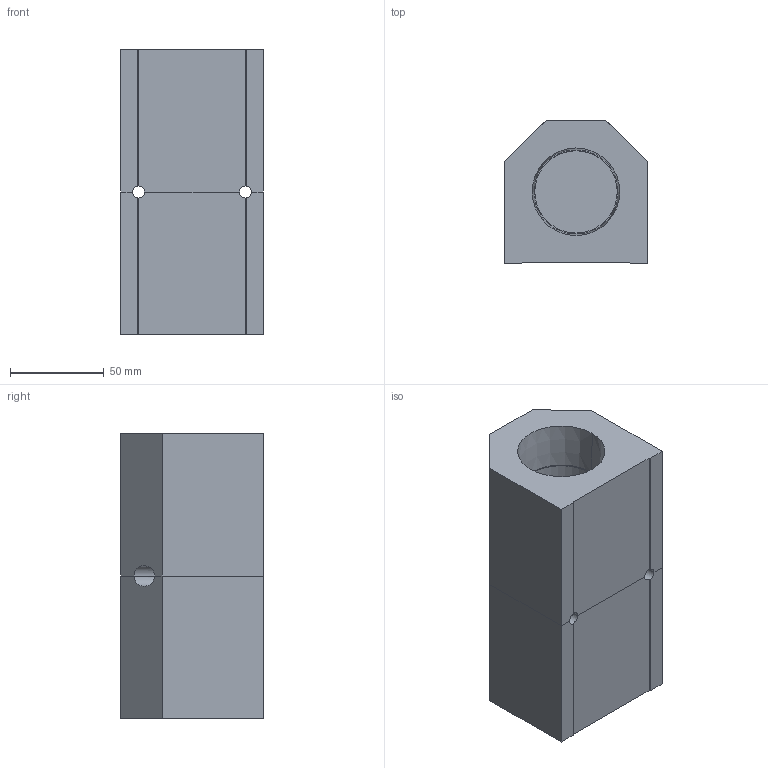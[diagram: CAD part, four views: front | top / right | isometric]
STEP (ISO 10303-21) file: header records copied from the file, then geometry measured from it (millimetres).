
FILE_DESCRIPTION (( 'STEP AP214' ), '1' );
FILE_NAME ('ALM2C-N6N24-152RB.step', '2022-02-07T09:15:52', ( '' ), ( '' ), 'SwSTEP 2.0', 'SolidWorks 2020', '' );
FILE_SCHEMA (( 'AUTOMOTIVE_DESIGN' ));
Length unit declared in the file: millimetre
Products named in the file (1): ALM2C-N6N24-152RB
Bounding box: 76.2 x 76.2 x 152 mm (x, y, z)
Volume: 556535.5 mm3; surface area: 86164.7 mm2
Topology: 2 solids, 2 shells, 308 faces, 811 edges, 540 vertices
Faces by surface type: plane 222, bspline 62, cylinder 16, cone 8
Entity records: 16400 total; most frequent: CARTESIAN_POINT 6392, ORIENTED_EDGE 1622, DIRECTION 1207, EDGE_CURVE 811, LINE 633, VECTOR 633, VERTEX_POINT 540, EDGE_LOOP 345
